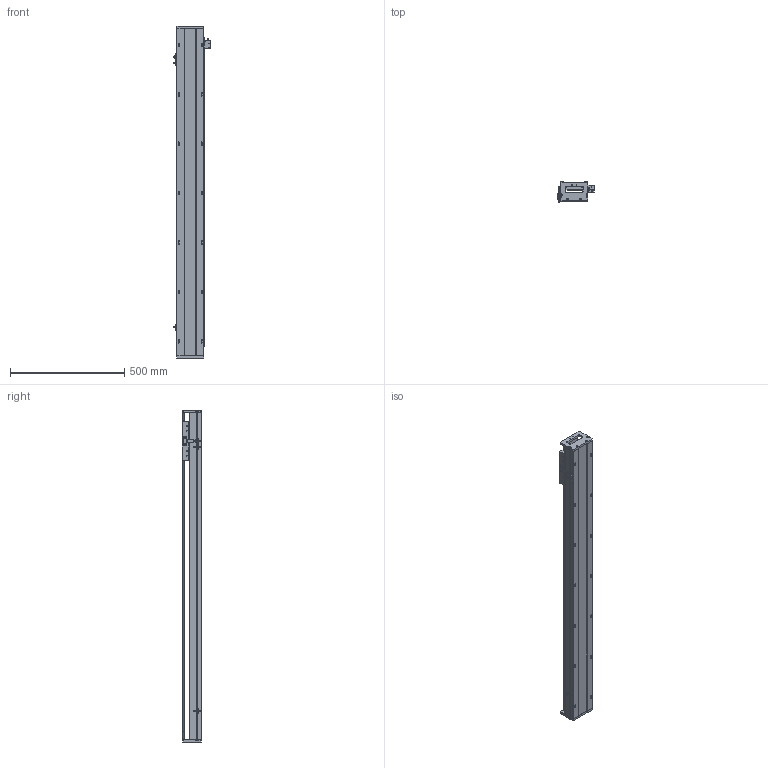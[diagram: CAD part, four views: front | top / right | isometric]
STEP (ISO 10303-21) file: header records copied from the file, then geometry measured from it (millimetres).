
FILE_DESCRIPTION (( 'STEP AP203' ), '1' );
FILE_NAME ('SKR12S-C1-S1182（简）.STEP', '2022-09-26T02:48:55', ( '' ), ( '' ), 'SwSTEP 2.0', 'SolidWorks 2018', '' );
FILE_SCHEMA (( 'CONFIG_CONTROL_DESIGN' ));
Length unit declared in the file: millimetre
Products named in the file (8): 棠掑假蚾輸; 覜茼え; SIKO棠掑; SKR12S-C1-S1182（简）; SKR12耜啣; EE-SX672; SKR12滑台-170L（简）; SKR12菁釱-C1-S1182(潠)
Assembly tree (10 placements, depth 2):
  SKR12S-C1-S1182（简）
    SKR12菁釱-C1-S1182(潠)
    SKR12滑台-170L（简）
    SKR12耜啣  x2
    棠掑假蚾輸
    SIKO棠掑
    覜茼え
    EE-SX672  x3
Bounding box: 162.7 x 87.3 x 1452 mm (x, y, z)
Volume: 6403776.9 mm3; surface area: 1027050.5 mm2
Topology: 11 solids, 11 shells, 1012 faces, 2695 edges, 1703 vertices
Faces by surface type: cylinder 469, plane 405, cone 138
Entity records: 27751 total; most frequent: CARTESIAN_POINT 5651, DIRECTION 4569, ORIENTED_EDGE 4346, EDGE_CURVE 2173, AXIS2_PLACEMENT_3D 1693, VERTEX_POINT 1407, VECTOR 1183, LINE 1183
